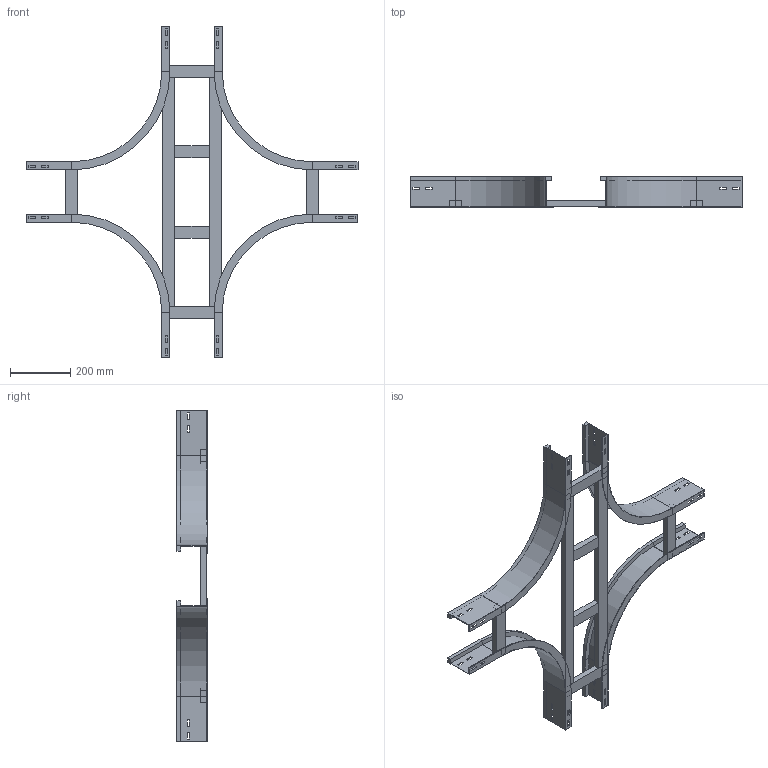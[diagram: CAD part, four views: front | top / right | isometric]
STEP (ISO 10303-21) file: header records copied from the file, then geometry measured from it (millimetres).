
FILE_DESCRIPTION (( 'STEP AP214' ), '1' );
FILE_NAME ('A2_17B3D200.step', '2025-02-21T15:54:55', ( '' ), ( '' ), 'SwSTEP 2.0', 'SolidWorks 2023', '' );
FILE_SCHEMA (( 'AUTOMOTIVE_DESIGN' ));
Length unit declared in the file: millimetre
Products named in the file (5): A2_LONGH.INTERNO 90°_H100_R300; TRAVERSINO_200; A2_17B3D200; A2_TRAVERSINO_LONG._R300+200; TRAVERSINO_INTERMEDIO_R300+200
Assembly tree (12 placements, depth 2):
  A2_17B3D200
    A2_LONGH.INTERNO 90°_H100_R300  x4
    TRAVERSINO_200  x4
    A2_TRAVERSINO_LONG._R300+200  x2
    TRAVERSINO_INTERMEDIO_R300+200  x2
Bounding box: 1100 x 100 x 1100 mm (x, y, z)
Volume: 3423300 mm3; surface area: 1208510.5 mm2
Topology: 12 solids, 12 shells, 280 faces, 704 edges, 448 vertices
Faces by surface type: plane 264, cylinder 16
Entity records: 2442 total; most frequent: CARTESIAN_POINT 399, DIRECTION 378, ORIENTED_EDGE 376, EDGE_CURVE 188, LINE 180, VECTOR 180, VERTEX_POINT 120, AXIS2_PLACEMENT_3D 99
